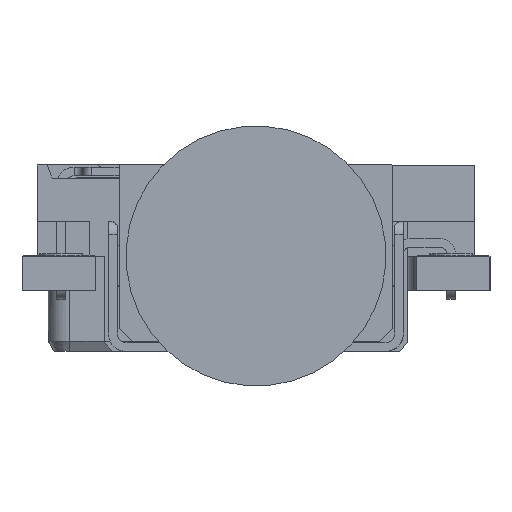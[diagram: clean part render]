
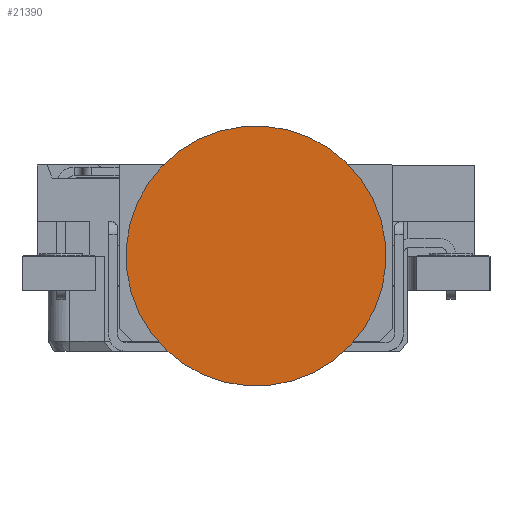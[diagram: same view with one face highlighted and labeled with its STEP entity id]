
A CAD part, front view. The second image highlights one B-rep face of the part: STEP entity #21390.
In plain terms, the highlighted planar face has unit normal (0, -1, 0) as drawn and (0, 0, 1) by its records, which use the part's own axes.
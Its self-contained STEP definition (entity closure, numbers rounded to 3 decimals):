
#11 = DIRECTION ( 'NONE',  ( 0., 0., 1. ) ) ;
#54 = CARTESIAN_POINT ( 'NONE',  ( 3.12, 3.123, 16. ) ) ;
#1333 = CARTESIAN_POINT ( 'NONE',  ( 0., -3., 16. ) ) ;
#2533 = DIRECTION ( 'NONE',  ( -1., 0., 0. ) ) ;
#6451 = CARTESIAN_POINT ( 'NONE',  ( 0., 0., 16. ) ) ;
#7777 = EDGE_LOOP ( 'NONE', ( #12265, #8698 ) ) ;
#8698 = ORIENTED_EDGE ( 'NONE', *, *, #29660, .T. ) ;
#8826 = DIRECTION ( 'NONE',  ( 0., 0., 1. ) ) ;
#9366 = AXIS2_PLACEMENT_3D ( 'NONE', #54, #22229, #2533 ) ;
#9694 = CARTESIAN_POINT ( 'NONE',  ( 0., 0., 16. ) ) ;
#10259 = PLANE ( 'NONE',  #9366 ) ;
#12175 = DIRECTION ( 'NONE',  ( 0., -1., 0. ) ) ;
#12265 = ORIENTED_EDGE ( 'NONE', *, *, #22757, .T. ) ;
#14693 = AXIS2_PLACEMENT_3D ( 'NONE', #6451, #8826, #23666 ) ;
#14738 = CIRCLE ( 'NONE', #20113, 3. ) ;
#17104 = FACE_OUTER_BOUND ( 'NONE', #7777, .T. ) ;
#19978 = CIRCLE ( 'NONE', #14693, 3. ) ;
#20113 = AXIS2_PLACEMENT_3D ( 'NONE', #9694, #11, #12175 ) ;
#21390 = ADVANCED_FACE ( 'NONE', ( #17104 ), #10259, .T. ) ;
#21582 = VERTEX_POINT ( 'NONE', #1333 ) ;
#21800 = VERTEX_POINT ( 'NONE', #28371 ) ;
#22229 = DIRECTION ( 'NONE',  ( 0., 0., 1. ) ) ;
#22757 = EDGE_CURVE ( 'NONE', #21582, #21800, #14738, .T. ) ;
#23666 = DIRECTION ( 'NONE',  ( 0., -1., 0. ) ) ;
#28371 = CARTESIAN_POINT ( 'NONE',  ( 0., 3., 16. ) ) ;
#29660 = EDGE_CURVE ( 'NONE', #21800, #21582, #19978, .T. ) ;
